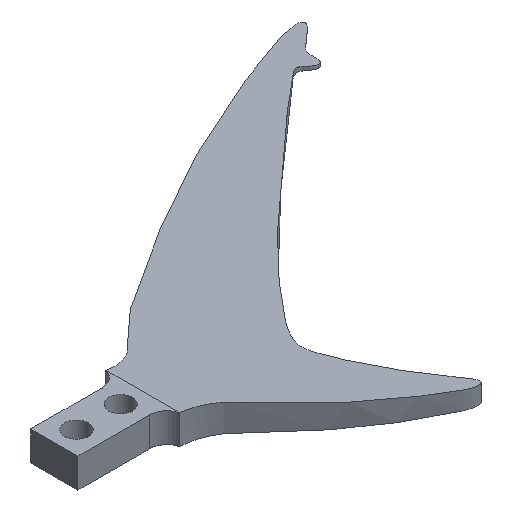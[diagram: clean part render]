
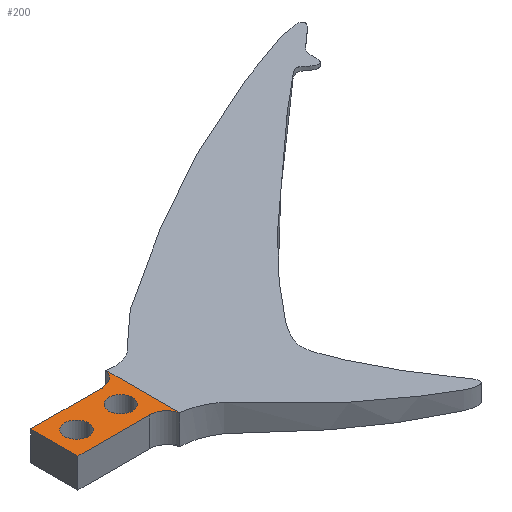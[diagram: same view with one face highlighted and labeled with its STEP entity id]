
A CAD part, isometric view. The second image highlights one B-rep face of the part: STEP entity #200.
In plain terms, the highlighted planar face has unit normal (0, 0, 1).
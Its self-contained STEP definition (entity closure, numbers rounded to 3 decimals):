
#18=FACE_BOUND('',#47,.T.);
#19=FACE_BOUND('',#48,.T.);
#23=PLANE('',#234);
#34=FACE_OUTER_BOUND('',#46,.T.);
#46=EDGE_LOOP('',(#159,#160,#161,#162,#163,#164));
#47=EDGE_LOOP('',(#165));
#48=EDGE_LOOP('',(#166));
#65=LINE('',#332,#81);
#66=LINE('',#334,#82);
#67=LINE('',#336,#83);
#68=LINE('',#337,#84);
#81=VECTOR('',#276,10.);
#82=VECTOR('',#279,10.);
#83=VECTOR('',#280,10.);
#84=VECTOR('',#281,10.);
#89=CIRCLE('',#222,2.);
#91=CIRCLE('',#225,2.);
#93=CIRCLE('',#228,3.);
#96=CIRCLE('',#232,3.);
#97=VERTEX_POINT('',#298);
#99=VERTEX_POINT('',#304);
#101=VERTEX_POINT('',#310);
#102=VERTEX_POINT('',#311);
#107=VERTEX_POINT('',#322);
#108=VERTEX_POINT('',#324);
#110=VERTEX_POINT('',#330);
#111=VERTEX_POINT('',#335);
#113=EDGE_CURVE('',#97,#97,#89,.T.);
#116=EDGE_CURVE('',#99,#99,#91,.T.);
#119=EDGE_CURVE('',#101,#102,#93,.F.);
#125=EDGE_CURVE('',#107,#108,#96,.T.);
#129=EDGE_CURVE('',#107,#110,#65,.T.);
#130=EDGE_CURVE('',#108,#102,#66,.T.);
#131=EDGE_CURVE('',#111,#110,#67,.T.);
#132=EDGE_CURVE('',#101,#111,#68,.T.);
#159=ORIENTED_EDGE('',*,*,#130,.F.);
#160=ORIENTED_EDGE('',*,*,#125,.F.);
#161=ORIENTED_EDGE('',*,*,#129,.T.);
#162=ORIENTED_EDGE('',*,*,#131,.F.);
#163=ORIENTED_EDGE('',*,*,#132,.F.);
#164=ORIENTED_EDGE('',*,*,#119,.T.);
#165=ORIENTED_EDGE('',*,*,#113,.T.);
#166=ORIENTED_EDGE('',*,*,#116,.T.);
#200=ADVANCED_FACE('',(#34,#18,#19),#23,.T.);
#222=AXIS2_PLACEMENT_3D('',#299,#244,#245);
#225=AXIS2_PLACEMENT_3D('',#305,#251,#252);
#228=AXIS2_PLACEMENT_3D('',#312,#258,#259);
#232=AXIS2_PLACEMENT_3D('',#325,#269,#270);
#234=AXIS2_PLACEMENT_3D('',#333,#277,#278);
#244=DIRECTION('center_axis',(0.,0.,-1.));
#245=DIRECTION('ref_axis',(-1.,0.,0.));
#251=DIRECTION('center_axis',(0.,0.,-1.));
#252=DIRECTION('ref_axis',(-1.,0.,0.));
#258=DIRECTION('center_axis',(0.,0.,1.));
#259=DIRECTION('ref_axis',(0.968,0.249,0.));
#269=DIRECTION('center_axis',(0.,0.,1.));
#270=DIRECTION('ref_axis',(0.968,-0.249,0.));
#276=DIRECTION('',(-1.,0.,0.));
#277=DIRECTION('center_axis',(0.,0.,1.));
#278=DIRECTION('ref_axis',(0.,1.,0.));
#279=DIRECTION('',(0.,-1.,0.));
#280=DIRECTION('',(0.,1.,0.));
#281=DIRECTION('',(-1.,0.,0.));
#298=CARTESIAN_POINT('',(-8.597,9.342,5.));
#299=CARTESIAN_POINT('Origin',(-10.597,9.342,5.));
#304=CARTESIAN_POINT('',(-1.097,9.342,5.));
#305=CARTESIAN_POINT('Origin',(-3.097,9.342,5.));
#310=CARTESIAN_POINT('',(-2.253,5.342,5.));
#311=CARTESIAN_POINT('',(0.653,3.09,5.));
#312=CARTESIAN_POINT('Origin',(-2.253,2.342,5.));
#322=CARTESIAN_POINT('',(-2.253,13.342,5.));
#324=CARTESIAN_POINT('',(0.653,15.594,5.));
#325=CARTESIAN_POINT('Origin',(-2.253,16.342,5.));
#330=CARTESIAN_POINT('',(-14.347,13.342,5.));
#332=CARTESIAN_POINT('',(0.653,13.342,5.));
#333=CARTESIAN_POINT('Origin',(0.653,5.342,5.));
#334=CARTESIAN_POINT('',(0.653,3.09,5.));
#335=CARTESIAN_POINT('',(-14.347,5.342,5.));
#336=CARTESIAN_POINT('',(-14.347,3.09,5.));
#337=CARTESIAN_POINT('',(0.653,5.342,5.));
